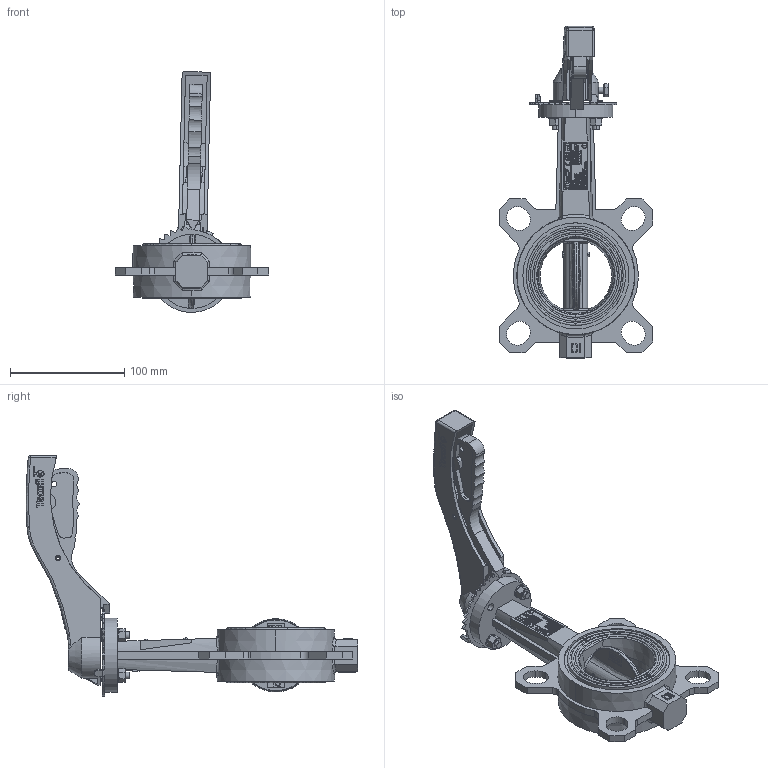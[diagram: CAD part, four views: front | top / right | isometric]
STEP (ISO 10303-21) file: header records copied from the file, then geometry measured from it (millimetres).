
FILE_DESCRIPTION (( 'STEP AP214' ), '1' );
FILE_NAME ('VPG444X-02XX0065-Défaut.step', '2022-05-19T16:20:54', ( '' ), ( '' ), 'SwSTEP 2.0', 'SolidWorks 2020', '' );
FILE_SCHEMA (( 'AUTOMOTIVE_DESIGN' ));
Length unit declared in the file: millimetre
Products named in the file (1): VPG444X-02XX0065-Défaut
Bounding box: 134.85 x 290.93 x 211.19 mm (x, y, z)
Surface area: 133547.9 mm2 (no closed solid volume)
Topology: 0 solids, 80 shells, 888 faces, 6227 edges, 5339 vertices
Faces by surface type: plane 571, cylinder 145, bspline 113, cone 54, torus 5
Entity records: 87986 total; most frequent: CARTESIAN_POINT 35619, ORIENTED_EDGE 7996, DIRECTION 6951, EDGE_CURVE 6221, VERTEX_POINT 5339, LINE 4291, VECTOR 4291, B_SPLINE_CURVE_WITH_KNOTS 1347
